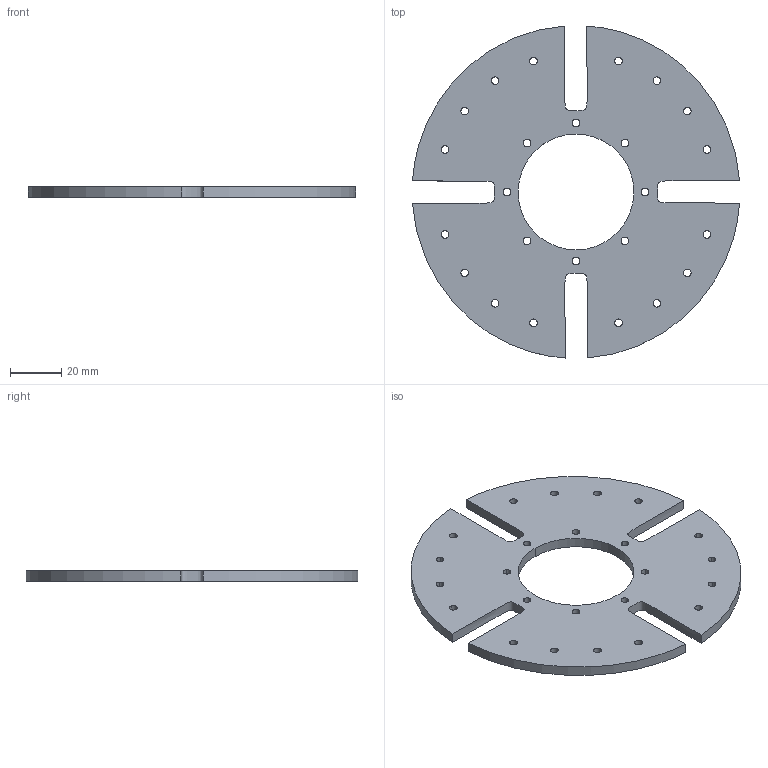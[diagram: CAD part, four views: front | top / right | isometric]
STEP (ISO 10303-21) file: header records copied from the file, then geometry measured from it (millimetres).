
FILE_DESCRIPTION(/* description */ (''),/* implementation_level */ '2;1');
FILE_NAME(/* name */ 'CentralConnectorPlate',/* time_stamp */ '2017-06-28T07:12:11+02:00',/* author */ (''),/* organization */ (''),/* preprocessor_version */ 'ST-DEVELOPER v15',/* originating_system */ '',/* authorisation */ '');
FILE_SCHEMA (('AUTOMOTIVE_DESIGN'));
Length unit declared in the file: millimetre
Products named in the file (1): Document
Bounding box: 127.81 x 129.73 x 4 mm (x, y, z)
Volume: 39283.4 mm3; surface area: 24217.6 mm2
Topology: 1 solids, 1 shells, 60 faces, 200 edges, 142 vertices
Faces by surface type: bspline 58, plane 2
Entity records: 2781 total; most frequent: CARTESIAN_POINT 1695, ORIENTED_EDGE 348, EDGE_CURVE 174, VERTEX_POINT 116, EDGE_LOOP 110, ADVANCED_FACE 60, FACE_OUTER_BOUND 60, FACE_BOUND 50
